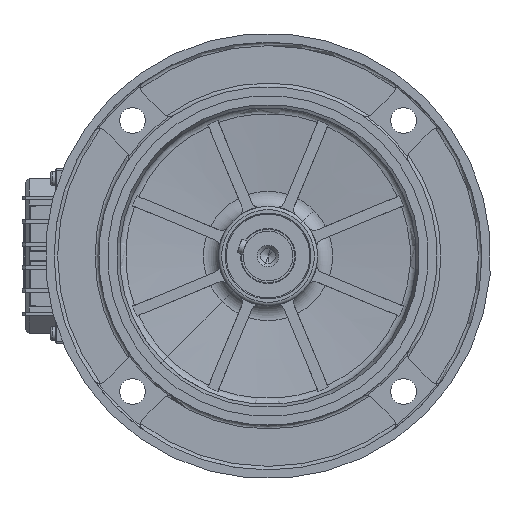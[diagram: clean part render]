
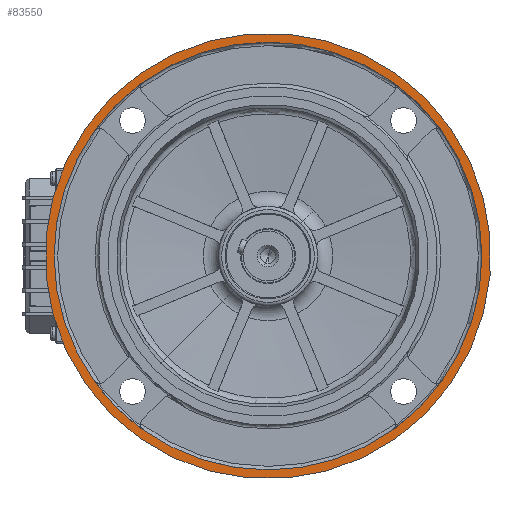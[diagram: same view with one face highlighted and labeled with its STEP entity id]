
A CAD part, left-side view. The second image highlights one B-rep face of the part: STEP entity #83550.
In plain terms, the highlighted planar face has unit normal (-1, 0, 0) as drawn and (0, 1, 0) by its records, which use the part's own axes.
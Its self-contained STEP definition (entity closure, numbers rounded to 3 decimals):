
#591 = CARTESIAN_POINT ( 'NONE',  ( 0., 44., 0. ) ) ;
#4318 = EDGE_CURVE ( 'NONE', #49184, #44336, #104043, .T. ) ;
#5457 = CARTESIAN_POINT ( 'NONE',  ( 0., 44., 125. ) ) ;
#5615 = CARTESIAN_POINT ( 'NONE',  ( -19.655, 44., 118.379 ) ) ;
#7050 = CARTESIAN_POINT ( 'NONE',  ( -118.379, 44., -19.655 ) ) ;
#9760 = ORIENTED_EDGE ( 'NONE', *, *, #80308, .F. ) ;
#9867 = DIRECTION ( 'NONE',  ( 0., 0., 1. ) ) ;
#10362 = CARTESIAN_POINT ( 'NONE',  ( 0., 44., 0. ) ) ;
#10856 = AXIS2_PLACEMENT_3D ( 'NONE', #53253, #117747, #62542 ) ;
#13741 = CARTESIAN_POINT ( 'NONE',  ( 0., 44., 0. ) ) ;
#14775 = DIRECTION ( 'NONE',  ( 0., 1., 0. ) ) ;
#15444 = EDGE_CURVE ( 'NONE', #67700, #86316, #117707, .T. ) ;
#15835 = CARTESIAN_POINT ( 'NONE',  ( 0., 44., 120. ) ) ;
#16047 = CARTESIAN_POINT ( 'NONE',  ( 0., 44., 0. ) ) ;
#16412 = VERTEX_POINT ( 'NONE', #29511 ) ;
#18511 = CARTESIAN_POINT ( 'NONE',  ( 0., 44., 0. ) ) ;
#19635 = DIRECTION ( 'NONE',  ( 0., 0., 1. ) ) ;
#19684 = VERTEX_POINT ( 'NONE', #47732 ) ;
#19850 = DIRECTION ( 'NONE',  ( 0., 1., 0. ) ) ;
#20428 = CARTESIAN_POINT ( 'NONE',  ( 0., 44., 0. ) ) ;
#21298 = AXIS2_PLACEMENT_3D ( 'NONE', #18511, #83072, #27791 ) ;
#21711 = EDGE_CURVE ( 'NONE', #19684, #71342, #51828, .T. ) ;
#23069 = DIRECTION ( 'NONE',  ( 0., 0., 1. ) ) ;
#24508 = PLANE ( 'NONE',  #119678 ) ;
#24720 = FACE_OUTER_BOUND ( 'NONE', #73730, .T. ) ;
#25313 = DIRECTION ( 'NONE',  ( 0., 0., 1. ) ) ;
#26307 = ORIENTED_EDGE ( 'NONE', *, *, #21711, .T. ) ;
#27209 = ORIENTED_EDGE ( 'NONE', *, *, #15444, .F. ) ;
#27791 = DIRECTION ( 'NONE',  ( 0., 0., 1. ) ) ;
#29511 = CARTESIAN_POINT ( 'NONE',  ( 19.655, 44., 118.379 ) ) ;
#29714 = DIRECTION ( 'NONE',  ( 0., 0., 1. ) ) ;
#31946 = CIRCLE ( 'NONE', #115404, 120. ) ;
#33454 = FACE_BOUND ( 'NONE', #75107, .T. ) ;
#33557 = CIRCLE ( 'NONE', #99423, 120. ) ;
#33776 = EDGE_CURVE ( 'NONE', #71342, #19684, #35435, .T. ) ;
#35435 = CIRCLE ( 'NONE', #90101, 125. ) ;
#37608 = CIRCLE ( 'NONE', #10856, 120. ) ;
#42115 = ORIENTED_EDGE ( 'NONE', *, *, #45518, .F. ) ;
#42405 = EDGE_CURVE ( 'NONE', #48559, #79499, #57840, .T. ) ;
#44056 = ORIENTED_EDGE ( 'NONE', *, *, #64460, .F. ) ;
#44110 = ORIENTED_EDGE ( 'NONE', *, *, #111624, .F. ) ;
#44336 = VERTEX_POINT ( 'NONE', #64357 ) ;
#45518 = EDGE_CURVE ( 'NONE', #86316, #49184, #84818, .T. ) ;
#46518 = CARTESIAN_POINT ( 'NONE',  ( 118.379, 44., 19.655 ) ) ;
#47068 = AXIS2_PLACEMENT_3D ( 'NONE', #10362, #74949, #19635 ) ;
#47732 = CARTESIAN_POINT ( 'NONE',  ( 0., 44., -125. ) ) ;
#48559 = VERTEX_POINT ( 'NONE', #46518 ) ;
#49184 = VERTEX_POINT ( 'NONE', #7050 ) ;
#49531 = CARTESIAN_POINT ( 'NONE',  ( 0., 44., 0. ) ) ;
#49776 = CIRCLE ( 'NONE', #21298, 120. ) ;
#51724 = CARTESIAN_POINT ( 'NONE',  ( 0., 44., 0. ) ) ;
#51828 = CIRCLE ( 'NONE', #104611, 125. ) ;
#53253 = CARTESIAN_POINT ( 'NONE',  ( 0., 44., 0. ) ) ;
#53988 = AXIS2_PLACEMENT_3D ( 'NONE', #591, #65203, #9867 ) ;
#54821 = ORIENTED_EDGE ( 'NONE', *, *, #33776, .T. ) ;
#57840 = CIRCLE ( 'NONE', #70714, 120. ) ;
#58818 = DIRECTION ( 'NONE',  ( 0., 0., 1. ) ) ;
#59501 = EDGE_CURVE ( 'NONE', #44336, #92401, #37608, .T. ) ;
#59634 = CARTESIAN_POINT ( 'NONE',  ( 19.655, 44., -118.379 ) ) ;
#61014 = DIRECTION ( 'NONE',  ( 0., 0., 1. ) ) ;
#61062 = EDGE_CURVE ( 'NONE', #92401, #83789, #95275, .T. ) ;
#61680 = DIRECTION ( 'NONE',  ( 0., 0., -1. ) ) ;
#62542 = DIRECTION ( 'NONE',  ( 0., 0., 1. ) ) ;
#64357 = CARTESIAN_POINT ( 'NONE',  ( -118.379, 44., 19.655 ) ) ;
#64460 = EDGE_CURVE ( 'NONE', #79499, #67700, #33557, .T. ) ;
#65203 = DIRECTION ( 'NONE',  ( 0., 1., 0. ) ) ;
#67700 = VERTEX_POINT ( 'NONE', #59634 ) ;
#70074 = CARTESIAN_POINT ( 'NONE',  ( 0., 44., 0. ) ) ;
#70714 = AXIS2_PLACEMENT_3D ( 'NONE', #20428, #84977, #29714 ) ;
#71342 = VERTEX_POINT ( 'NONE', #5457 ) ;
#73730 = EDGE_LOOP ( 'NONE', ( #54821, #26307 ) ) ;
#73951 = AXIS2_PLACEMENT_3D ( 'NONE', #70074, #14775, #79363 ) ;
#74949 = DIRECTION ( 'NONE',  ( 0., 1., 0. ) ) ;
#75107 = EDGE_LOOP ( 'NONE', ( #9760, #44110, #100598, #90427, #112159, #42115, #27209, #44056, #97703 ) ) ;
#75148 = CARTESIAN_POINT ( 'NONE',  ( 0., 44., 0. ) ) ;
#75260 = AXIS2_PLACEMENT_3D ( 'NONE', #51724, #116229, #61014 ) ;
#78345 = DIRECTION ( 'NONE',  ( 0., 1., 0. ) ) ;
#79363 = DIRECTION ( 'NONE',  ( 0., 0., 1. ) ) ;
#79499 = VERTEX_POINT ( 'NONE', #92979 ) ;
#80308 = EDGE_CURVE ( 'NONE', #16412, #48559, #49776, .T. ) ;
#80623 = DIRECTION ( 'NONE',  ( 0., 1., 0. ) ) ;
#83072 = DIRECTION ( 'NONE',  ( 0., 1., 0. ) ) ;
#83550 = ADVANCED_FACE ( 'NONE', ( #33454, #24720 ), #24508, .F. ) ;
#83789 = VERTEX_POINT ( 'NONE', #15835 ) ;
#84406 = DIRECTION ( 'NONE',  ( 0., 0., 1. ) ) ;
#84818 = CIRCLE ( 'NONE', #47068, 120. ) ;
#84977 = DIRECTION ( 'NONE',  ( 0., 1., 0. ) ) ;
#86316 = VERTEX_POINT ( 'NONE', #103070 ) ;
#90101 = AXIS2_PLACEMENT_3D ( 'NONE', #75148, #19850, #84406 ) ;
#90427 = ORIENTED_EDGE ( 'NONE', *, *, #59501, .F. ) ;
#92401 = VERTEX_POINT ( 'NONE', #5615 ) ;
#92979 = CARTESIAN_POINT ( 'NONE',  ( 118.379, 44., -19.655 ) ) ;
#95275 = CIRCLE ( 'NONE', #75260, 120. ) ;
#97703 = ORIENTED_EDGE ( 'NONE', *, *, #42405, .F. ) ;
#98348 = CARTESIAN_POINT ( 'NONE',  ( 120., 44., 0. ) ) ;
#99423 = AXIS2_PLACEMENT_3D ( 'NONE', #16047, #80623, #25313 ) ;
#100598 = ORIENTED_EDGE ( 'NONE', *, *, #61062, .F. ) ;
#103070 = CARTESIAN_POINT ( 'NONE',  ( -19.655, 44., -118.379 ) ) ;
#104043 = CIRCLE ( 'NONE', #73951, 120. ) ;
#104611 = AXIS2_PLACEMENT_3D ( 'NONE', #13741, #78345, #23069 ) ;
#111624 = EDGE_CURVE ( 'NONE', #83789, #16412, #31946, .T. ) ;
#112159 = ORIENTED_EDGE ( 'NONE', *, *, #4318, .F. ) ;
#114029 = DIRECTION ( 'NONE',  ( 0., 1., 0. ) ) ;
#115404 = AXIS2_PLACEMENT_3D ( 'NONE', #49531, #114029, #58818 ) ;
#116229 = DIRECTION ( 'NONE',  ( 0., 1., 0. ) ) ;
#116902 = DIRECTION ( 'NONE',  ( 0., -1., 0. ) ) ;
#117707 = CIRCLE ( 'NONE', #53988, 120. ) ;
#117747 = DIRECTION ( 'NONE',  ( 0., 1., 0. ) ) ;
#119678 = AXIS2_PLACEMENT_3D ( 'NONE', #98348, #116902, #61680 ) ;
